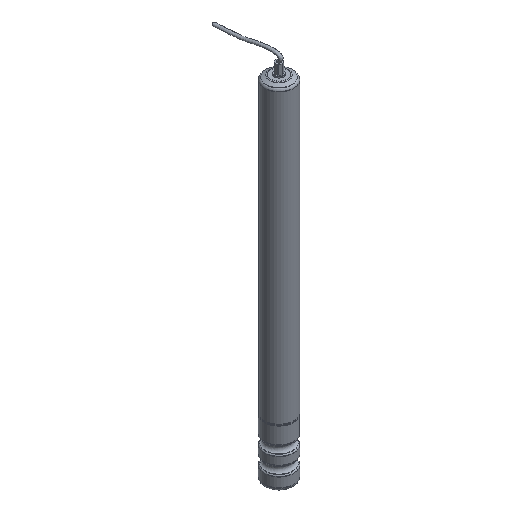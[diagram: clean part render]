
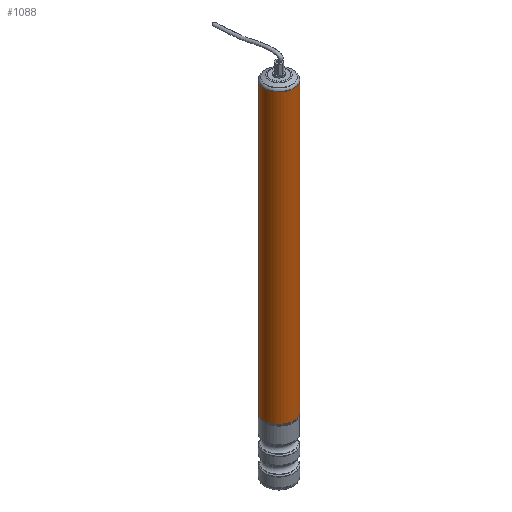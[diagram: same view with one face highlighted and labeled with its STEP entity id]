
A CAD part, isometric view. The second image highlights one B-rep face of the part: STEP entity #1088.
In plain terms, the highlighted cylindrical face has radius 25 mm (diameter 50 mm), a full revolution.
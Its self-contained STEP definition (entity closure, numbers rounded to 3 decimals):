
#119=FACE_OUTER_BOUND('',#196,.T.);
#196=EDGE_LOOP('',(#839,#840,#841,#842));
#260=LINE('',#2534,#306);
#306=VECTOR('',#1557,25.);
#376=CIRCLE('',#1241,25.);
#377=CIRCLE('',#1243,25.);
#479=VERTEX_POINT('',#2529);
#480=VERTEX_POINT('',#2532);
#607=EDGE_CURVE('',#479,#479,#376,.T.);
#608=EDGE_CURVE('',#480,#480,#377,.T.);
#609=EDGE_CURVE('',#480,#479,#260,.T.);
#839=ORIENTED_EDGE('',*,*,#608,.F.);
#840=ORIENTED_EDGE('',*,*,#609,.T.);
#841=ORIENTED_EDGE('',*,*,#607,.T.);
#842=ORIENTED_EDGE('',*,*,#609,.F.);
#966=CYLINDRICAL_SURFACE('',#1242,25.);
#1088=ADVANCED_FACE('',(#119),#966,.T.);
#1241=AXIS2_PLACEMENT_3D('',#2530,#1551,#1552);
#1242=AXIS2_PLACEMENT_3D('',#2531,#1553,#1554);
#1243=AXIS2_PLACEMENT_3D('',#2533,#1555,#1556);
#1551=DIRECTION('center_axis',(0.,0.,1.));
#1552=DIRECTION('ref_axis',(1.,0.,0.));
#1553=DIRECTION('center_axis',(0.,0.,1.));
#1554=DIRECTION('ref_axis',(1.,0.,0.));
#1555=DIRECTION('center_axis',(0.,0.,1.));
#1556=DIRECTION('ref_axis',(1.,0.,0.));
#1557=DIRECTION('',(0.,0.,-1.));
#2529=CARTESIAN_POINT('',(-25.,0.,108.));
#2530=CARTESIAN_POINT('Origin',(0.,0.,108.));
#2531=CARTESIAN_POINT('Origin',(0.,0.,7.));
#2532=CARTESIAN_POINT('',(-25.,0.,599.91));
#2533=CARTESIAN_POINT('Origin',(0.,0.,599.91));
#2534=CARTESIAN_POINT('',(-25.,0.,7.));
